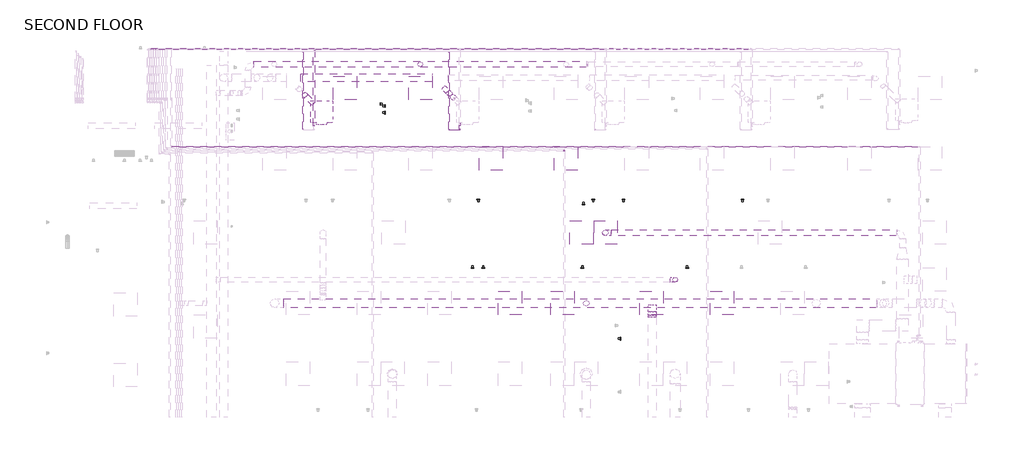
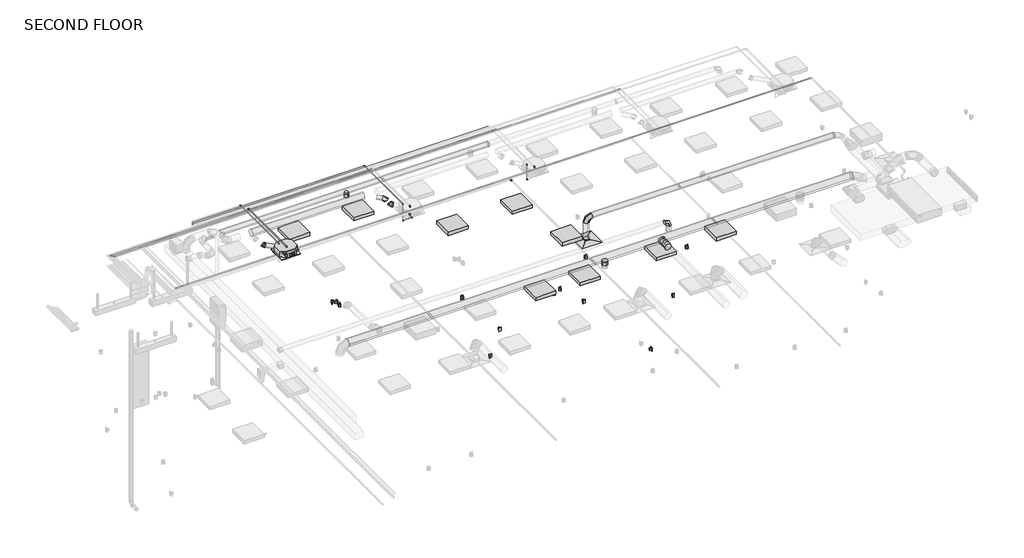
# One storey, part 10 of 12: 14 pipe segments, 12 pipe fittings, 11 duct segments, 9 duct fittings, 9 light fixtures, 9 proxies, 4 switching devices, 1 air terminal, 1 electric appliance.
"""IFC4 building model written with IfcOpenShell, lengths in millimetres."""

from ifc_helpers import new_model, si_unit, point, frame, frame_2d, origin, place, context, project, spatial, circle_curve, trimmed, segment, composite_curve, outline, extrude, transform, mapped, element, save
from components import air_terminal_52af7c74, mechanical_equipment_2d84379e, duplex_receptacle_countertop_10251bba, round_elbow_1_d_b37ad80b, round_elbow_1_d_c80420c1, round_elbow_1_d_e3dc691b, round_elbow_1_d_bb13c7cb, round_takeoff_standard_d0146e83, round_takeoff_standard_a3e273fa, round_takeoff_standard_d07f2805, round_transition_angle_45_degree_3e9bb6ff, telephone_outlet_data_plain_18c24199, troffer_corner_insert_2x2_3lamp_e67c7f8f, elbow_generic_standard_c06ac706, elbow_generic_standard_a088f956

model = new_model("IFC4")

# Units and contexts
model_context = context("Model", 3, world=origin())
ifc_project = project(units=[si_unit("LENGTHUNIT", "METRE", prefix="MILLI")], contexts=[model_context])

# Site, building, storey
site = spatial("IfcSite", under=ifc_project)
building = spatial("IfcBuilding", under=site)
storey = spatial("IfcBuildingStorey", under=building, Name="SECOND FLOOR", Elevation=34544.0)

# Air terminal
placement = place(None, origin())
air_terminal_shape = air_terminal_52af7c74(model_context)
element("IfcAirTerminal", 1, ObjectType="Supply Diffuser - Rectangular Face Round Neck - Hosted : 24\"x24\" Face 6\" Neck - Hosted", at=placement, inside=storey, context=model_context, shape_type="MappedRepresentation", body=[
    mapped(air_terminal_shape, transform((3858.5795393, 2906.1195005, 36982.4), x_axis=(-1.0, 0.0, 0.0), y_axis=(0.0, 1.0, 0.0), z_axis=(0.0, 0.0, -1.0))),
])

# Proxies
mechanical_equipment_shape = mechanical_equipment_2d84379e(model_context)
element("IfcBuildingElementProxy", 2, Name="PLFY-P-NCMU-E_4-way_24x24 : PLFY-P12NCMU-E", ObjectType="PLFY-P-NCMU-E_4-way_24x24 : PLFY-P12NCMU-E", at=placement, inside=storey, context=model_context, shape_type="MappedRepresentation", body=[
    mapped(mechanical_equipment_shape, transform((-3492.3392107, 6112.4342918, 37287.2), x_axis=(-1.0, 0.0, 0.0), y_axis=(0.0, 1.0, 0.0), z_axis=(0.0, 0.0, -1.0))),
])
duplex_receptacle_countertop_shape = duplex_receptacle_countertop_10251bba(model_context)
element("IfcBuildingElementProxy", 3, Name="Duplex Receptacle : Standard", ObjectType="Duplex Receptacle : Standard", at=placement, inside=storey, context=model_context, shape_type="MappedRepresentation", body=[
    mapped(duplex_receptacle_countertop_shape, transform((-1973.8954607, 6240.6693669, 35001.2), x_axis=(0.0, -1.0, 0.0), y_axis=(0.0, 0.0, 1.0), z_axis=(-1.0, 0.0, 0.0))),
])
element("IfcBuildingElementProxy", 4, Name="Duplex Receptacle : Standard", ObjectType="Duplex Receptacle : Standard", at=placement, inside=storey, context=model_context, shape_type="MappedRepresentation", body=[
    mapped(duplex_receptacle_countertop_shape, transform((-1850.0704607, 6015.1333707, 35001.2), x_axis=(0.0, 1.0, 0.0), y_axis=(0.0, 0.0, 1.0), z_axis=(1.0, 0.0, 0.0))),
])
element("IfcBuildingElementProxy", 5, Name="Duplex Receptacle : Standard", ObjectType="Duplex Receptacle : Standard", at=placement, inside=storey, context=model_context, shape_type="MappedRepresentation", body=[
    mapped(duplex_receptacle_countertop_shape, transform((3547.242685, 3763.3695005, 35001.2), x_axis=(-1.0, 0.0, 0.0), y_axis=(0.0, 0.0, 1.0), z_axis=(0.0, 1.0, 0.0))),
])
element("IfcBuildingElementProxy", 6, Name="Duplex Receptacle : Standard", ObjectType="Duplex Receptacle : Standard", at=placement, inside=storey, context=model_context, shape_type="MappedRepresentation", body=[
    mapped(duplex_receptacle_countertop_shape, transform((7415.6384414, 3763.3695005, 35001.2), x_axis=(-1.0, 0.0, 0.0), y_axis=(0.0, 0.0, 1.0), z_axis=(0.0, 1.0, 0.0))),
])
element("IfcBuildingElementProxy", 7, Name="Duplex Receptacle : Standard", ObjectType="Duplex Receptacle : Standard", at=placement, inside=storey, context=model_context, shape_type="MappedRepresentation", body=[
    mapped(duplex_receptacle_countertop_shape, transform((3298.1886879, 3639.5445005, 35001.2), x_axis=(1.0, 0.0, 0.0), y_axis=(0.0, 0.0, 1.0), z_axis=(0.0, -1.0, 0.0))),
])
element("IfcBuildingElementProxy", 8, Name="Duplex Receptacle : Standard", ObjectType="Duplex Receptacle : Standard", at=placement, inside=storey, context=model_context, shape_type="MappedRepresentation", body=[
    mapped(duplex_receptacle_countertop_shape, transform((414.898923, 1991.7195005, 35001.2), x_axis=(1.0, 0.0, 0.0), y_axis=(0.0, 0.0, 1.0), z_axis=(0.0, -1.0, 0.0))),
])
element("IfcBuildingElementProxy", 9, Name="Duplex Receptacle : Standard", ObjectType="Duplex Receptacle : Standard", at=placement, inside=storey, context=model_context, shape_type="MappedRepresentation", body=[
    mapped(duplex_receptacle_countertop_shape, transform((4250.6920393, 156.7583411, 35001.2), x_axis=(0.0, 1.0, 0.0), y_axis=(0.0, 0.0, 1.0), z_axis=(1.0, 0.0, 0.0))),
])
element("IfcBuildingElementProxy", 10, Name="Duplex Receptacle : Standard", ObjectType="Duplex Receptacle : Standard", at=placement, inside=storey, context=model_context, shape_type="MappedRepresentation", body=[
    mapped(duplex_receptacle_countertop_shape, transform((5982.6308828, 1991.7195005, 35001.2), x_axis=(1.0, 0.0, 0.0), y_axis=(0.0, 0.0, 1.0), z_axis=(0.0, -1.0, 0.0))),
])

# Duct fittings
round_elbow_1_d_shape = round_elbow_1_d_b37ad80b(model_context)
element("IfcDuctFitting", 11, ObjectType="Round Elbow : 1 D", at=placement, inside=storey, context=model_context, shape_type="MappedRepresentation", body=[
    mapped(round_elbow_1_d_shape, transform((3858.5795393, 2906.1195005, 37712.65), x_axis=(0.0, 0.0, 1.0), y_axis=(1.0, 0.0, 0.0), z_axis=(0.0, 1.0, 0.0))),
])
round_elbow_1_d_2_shape = round_elbow_1_d_c80420c1(model_context)
element("IfcDuctFitting", 12, ObjectType="Round Elbow : 1 D", at=placement, inside=storey, context=model_context, shape_type="MappedRepresentation", body=[
    mapped(round_elbow_1_d_2_shape, transform((5669.1232893, 1686.9195005, 37693.6), x_axis=(1.0, 0.0, 0.0), y_axis=(0.0, 0.0, -1.0), z_axis=(0.0, 1.0, 0.0))),
])
round_elbow_1_d_3_shape = round_elbow_1_d_e3dc691b(model_context)
element("IfcDuctFitting", 13, ObjectType="Round Elbow : 1 D", at=placement, inside=storey, context=model_context, shape_type="MappedRepresentation", body=[
    mapped(round_elbow_1_d_3_shape, transform((-77.1395108, 6410.0385506, 37381.2593852), x_axis=(-0.7071067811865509, 0.7071067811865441, 0.0), y_axis=(0.0, 0.0, 1.0), z_axis=(0.7071067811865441, 0.7071067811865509, 0.0))),
])
element("IfcDuctFitting", 14, ObjectType="Round Elbow : 1 D", at=placement, inside=storey, context=model_context, shape_type="MappedRepresentation", body=[
    mapped(round_elbow_1_d_3_shape, transform((-190.2346041, 6523.1336439, 37541.2), x_axis=(-0.5000000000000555, 0.49999999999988, 0.7071067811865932), y_axis=(-0.49999999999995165, 0.5000000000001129, -0.7071067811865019), z_axis=(-0.7071067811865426, -0.7071067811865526, 0.0))),
])
round_elbow_1_d_4_shape = round_elbow_1_d_bb13c7cb(model_context)
element("IfcDuctFitting", 15, ObjectType="Round Elbow : 1 D", at=placement, inside=storey, context=model_context, shape_type="MappedRepresentation", body=[
    mapped(round_elbow_1_d_4_shape, transform((-3914.7619512, 6466.235991, 37381.2593852), x_axis=(0.5775887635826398, -0.5775887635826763, -0.5768729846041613), y_axis=(0.4079107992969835, -0.4079107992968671, 0.8168338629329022), z_axis=(-0.7071067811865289, -0.7071067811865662, 0.0))),
])
round_takeoff_standard_shape = round_takeoff_standard_d0146e83(model_context)
element("IfcDuctFitting", 16, ObjectType="Round Takeoff : Standard", at=placement, inside=storey, context=model_context, shape_type="MappedRepresentation", body=[
    mapped(round_takeoff_standard_shape, transform((3364.8670393, 1077.3195005, 37579.3), x_axis=(0.0, 0.0, -1.0), y_axis=(-1.0, 0.0, 0.0), z_axis=(0.0, 1.0, 0.0))),
])
round_takeoff_standard_2_shape = round_takeoff_standard_a3e273fa(model_context)
element("IfcDuctFitting", 17, ObjectType="Round Takeoff : Standard", at=placement, inside=storey, context=model_context, shape_type="MappedRepresentation", body=[
    mapped(round_takeoff_standard_2_shape, transform((-935.6704607, 7268.5695005, 37515.8), x_axis=(0.0, 0.0, -1.0), y_axis=(1.0, 0.0, 0.0), z_axis=(0.0, -1.0, 0.0))),
])
round_takeoff_standard_3_shape = round_takeoff_standard_d07f2805(model_context)
element("IfcDuctFitting", 18, ObjectType="Round Takeoff : Standard", at=placement, inside=storey, context=model_context, shape_type="MappedRepresentation", body=[
    mapped(round_takeoff_standard_3_shape, transform((5077.7795393, 963.0195005, 37693.6), x_axis=(0.0, -1.0, 0.0), y_axis=(-1.0, 0.0, 0.0), z_axis=(0.0, 0.0, -1.0))),
])
round_transition_angle_45_degree_shape = round_transition_angle_45_degree_3e9bb6ff(model_context)
element("IfcDuctFitting", 19, ObjectType="Round Transition - Angle : 45 Degree", at=placement, inside=storey, context=model_context, shape_type="MappedRepresentation", body=[
    mapped(round_transition_angle_45_degree_shape, transform((5077.7795393, 758.7255707, 37693.6), x_axis=(0.0, -1.0, 0.0), y_axis=(1.0, 0.0, 0.0), z_axis=(0.0, 0.0, 1.0))),
])

# Duct segments
element("IfcDuctSegment", 20, ObjectType="Taps / Short Radius", at=placement, inside=storey, context=model_context, shape_type="SweptSolid", body=[
    extrude(outline(composite_curve([segment(trimmed(circle_curve(frame_2d((2906.1195005, 37712.65)), 76.2), [point((2829.9195005, 37712.65))], [point((2906.1195005, 37788.85))], False, "CARTESIAN"), True, "CONTINUOUS"), segment(trimmed(circle_curve(frame_2d((2906.1195005, 37712.65)), 76.2), [point((2906.1195005, 37788.85))], [point((2982.3195005, 37712.65))], False, "CARTESIAN"), True, "CONTINUOUS"), segment(trimmed(circle_curve(frame_2d((2906.1195005, 37712.65)), 76.2), [point((2982.3195005, 37712.65))], [point((2906.1195005, 37636.45))], False, "CARTESIAN"), True, "CONTINUOUS"), segment(trimmed(circle_curve(frame_2d((2906.1195005, 37712.65)), 76.2), [point((2906.1195005, 37636.45))], [point((2829.9195005, 37712.65))], False, "CARTESIAN"), True, "CONTINUOUS")], self_intersect=False)), frame((4010.9795393, 0.0, 0.0), z_axis=(1.0, 0.0, 0.0), x_axis=(0.0, 1.0, 0.0)), (0.0, 0.0, 1.0), 7400.528125),
])
element("IfcDuctSegment", 21, ObjectType="Taps / Short Radius", at=placement, inside=storey, context=model_context, shape_type="SweptSolid", body=[
    extrude(outline(composite_curve([segment(trimmed(circle_curve(frame_2d((3858.5795393, 2906.1195005)), 76.2), [point((3934.7795393, 2906.1195005))], [point((3858.5795393, 2829.9195005))], False, "CARTESIAN"), True, "CONTINUOUS"), segment(trimmed(circle_curve(frame_2d((3858.5795393, 2906.1195005)), 76.2), [point((3858.5795393, 2829.9195005))], [point((3782.3795393, 2906.1195005))], False, "CARTESIAN"), True, "CONTINUOUS"), segment(trimmed(circle_curve(frame_2d((3858.5795393, 2906.1195005)), 76.2), [point((3782.3795393, 2906.1195005))], [point((3858.5795393, 2982.3195005))], False, "CARTESIAN"), True, "CONTINUOUS"), segment(trimmed(circle_curve(frame_2d((3858.5795393, 2906.1195005)), 76.2), [point((3858.5795393, 2982.3195005))], [point((3934.7795393, 2906.1195005))], False, "CARTESIAN"), True, "CONTINUOUS")], self_intersect=False)), frame((0.0, 0.0, 37036.375), z_axis=(0.0, 0.0, 1.0), x_axis=(1.0, 0.0, 0.0)), (0.0, 0.0, 1.0), 523.875),
])
element("IfcDuctSegment", 22, ObjectType="Taps / Short Radius", at=placement, inside=storey, context=model_context, shape_type="SweptSolid", body=[
    extrude(outline(composite_curve([segment(trimmed(circle_curve(frame_2d((0.0, 63.5)), 63.5), [point((-63.5, 63.5))], [point((0.0, 127.0))], False, "CARTESIAN"), True, "CONTINUOUS"), segment(trimmed(circle_curve(frame_2d((0.0, 63.5)), 63.5), [point((0.0, 127.0))], [point((63.5, 63.5))], False, "CARTESIAN"), True, "CONTINUOUS"), segment(trimmed(circle_curve(frame_2d((0.0, 63.5)), 63.5), [point((63.5, 63.5))], [point((0.0, 0.0))], False, "CARTESIAN"), True, "CONTINUOUS"), segment(trimmed(circle_curve(frame_2d((0.0, 63.5)), 63.5), [point((0.0, 0.0))], [point((-63.5, 63.5))], False, "CARTESIAN"), True, "CONTINUOUS")], self_intersect=False)), frame((-935.6704607, 7205.0695005, 37388.8), z_axis=(0.0, -5.900346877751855e-12, 1.0), x_axis=(1.0, 0.0, 0.0)), (0.0, 0.0, 1.0), 25.4),
])
element("IfcDuctSegment", 23, ObjectType="Taps / Short Radius", at=placement, inside=storey, context=model_context, shape_type="SweptSolid", body=[
    extrude(outline(composite_curve([segment(trimmed(circle_curve(frame_2d((7268.5695005, 37592.0)), 76.2), [point((7344.7695005, 37592.0))], [point((7268.5695005, 37515.8))], False, "CARTESIAN"), True, "CONTINUOUS"), segment(trimmed(circle_curve(frame_2d((7268.5695005, 37592.0)), 76.2), [point((7268.5695005, 37515.8))], [point((7192.3695005, 37592.0))], False, "CARTESIAN"), True, "CONTINUOUS"), segment(trimmed(circle_curve(frame_2d((7268.5695005, 37592.0)), 76.2), [point((7192.3695005, 37592.0))], [point((7268.5695005, 37668.2))], False, "CARTESIAN"), True, "CONTINUOUS"), segment(trimmed(circle_curve(frame_2d((7268.5695005, 37592.0)), 76.2), [point((7268.5695005, 37668.2))], [point((7344.7695005, 37592.0))], False, "CARTESIAN"), True, "CONTINUOUS")], self_intersect=False)), frame((-5248.9079607, 0.0, 0.0), z_axis=(1.0, 0.0, 0.0), x_axis=(0.0, 1.0, 0.0)), (0.0, 0.0, 1.0), 8630.7394878),
])
element("IfcDuctSegment", 24, ObjectType="Taps / Short Radius", at=placement, inside=storey, context=model_context, shape_type="SweptSolid", body=[
    extrude(outline(composite_curve([segment(trimmed(circle_curve(frame_2d((5669.1232893, 1686.9195005)), 63.5), [point((5605.6232893, 1686.9195005))], [point((5669.1232893, 1750.4195005))], False, "CARTESIAN"), True, "CONTINUOUS"), segment(trimmed(circle_curve(frame_2d((5669.1232893, 1686.9195005)), 63.5), [point((5669.1232893, 1750.4195005))], [point((5732.6232893, 1686.9195005))], False, "CARTESIAN"), True, "CONTINUOUS"), segment(trimmed(circle_curve(frame_2d((5669.1232893, 1686.9195005)), 63.5), [point((5732.6232893, 1686.9195005))], [point((5669.1232893, 1623.4195005))], False, "CARTESIAN"), True, "CONTINUOUS"), segment(trimmed(circle_curve(frame_2d((5669.1232893, 1686.9195005)), 63.5), [point((5669.1232893, 1623.4195005))], [point((5605.6232893, 1686.9195005))], False, "CARTESIAN"), True, "CONTINUOUS")], self_intersect=False)), frame((0.0, 0.0, 37388.8), z_axis=(0.0, 0.0, 1.0), x_axis=(1.0, 0.0, 0.0)), (0.0, 0.0, 1.0), 177.8),
])
element("IfcDuctSegment", 25, ObjectType="Taps / Short Radius", at=placement, inside=storey, context=model_context, shape_type="SweptSolid", body=[
    extrude(outline(composite_curve([segment(trimmed(circle_curve(frame_2d((1077.3195005, 37693.6)), 114.3), [point((963.0195005, 37693.6))], [point((1077.3195005, 37807.9))], False, "CARTESIAN"), True, "CONTINUOUS"), segment(trimmed(circle_curve(frame_2d((1077.3195005, 37693.6)), 114.3), [point((1077.3195005, 37807.9))], [point((1191.6195005, 37693.6))], False, "CARTESIAN"), True, "CONTINUOUS"), segment(trimmed(circle_curve(frame_2d((1077.3195005, 37693.6)), 114.3), [point((1191.6195005, 37693.6))], [point((1077.3195005, 37579.3))], False, "CARTESIAN"), True, "CONTINUOUS"), segment(trimmed(circle_curve(frame_2d((1077.3195005, 37693.6)), 114.3), [point((1077.3195005, 37579.3))], [point((963.0195005, 37693.6))], False, "CARTESIAN"), True, "CONTINUOUS")], self_intersect=False)), frame((-4479.7642107, 0.0, 0.0), z_axis=(1.0, 0.0, 0.0), x_axis=(0.0, 1.0, 0.0)), (0.0, 0.0, 1.0), 15377.2508712),
])
element("IfcDuctSegment", 26, ObjectType="Taps / Short Radius", at=placement, inside=storey, context=model_context, shape_type="SweptSolid", body=[
    extrude(outline(composite_curve([segment(trimmed(circle_curve(frame_2d((3364.8670393, 1077.3195005)), 76.2), [point((3288.6670393, 1077.3195005))], [point((3364.8670393, 1153.5195005))], False, "CARTESIAN"), True, "CONTINUOUS"), segment(trimmed(circle_curve(frame_2d((3364.8670393, 1077.3195005)), 76.2), [point((3364.8670393, 1153.5195005))], [point((3441.0670393, 1077.3195005))], False, "CARTESIAN"), True, "CONTINUOUS"), segment(trimmed(circle_curve(frame_2d((3364.8670393, 1077.3195005)), 76.2), [point((3441.0670393, 1077.3195005))], [point((3364.8670393, 1001.1195005))], False, "CARTESIAN"), True, "CONTINUOUS"), segment(trimmed(circle_curve(frame_2d((3364.8670393, 1077.3195005)), 76.2), [point((3364.8670393, 1001.1195005))], [point((3288.6670393, 1077.3195005))], False, "CARTESIAN"), True, "CONTINUOUS")], self_intersect=False)), frame((0.0, 0.0, 37388.8), z_axis=(0.0, 0.0, 1.0), x_axis=(1.0, 0.0, 0.0)), (0.0, 0.0, 1.0), 88.9),
])
element("IfcDuctSegment", 27, ObjectType="Taps / Short Radius", at=placement, inside=storey, context=model_context, shape_type="SweptSolid", body=[
    extrude(outline(composite_curve([segment(trimmed(circle_curve(frame_2d((37693.6, 5077.7795393)), 101.6), [point((37693.6, 4976.1795393))], [point((37592.0, 5077.7795393))], False, "CARTESIAN"), True, "CONTINUOUS"), segment(trimmed(circle_curve(frame_2d((37693.6, 5077.7795393)), 101.6), [point((37592.0, 5077.7795393))], [point((37693.6, 5179.3795393))], False, "CARTESIAN"), True, "CONTINUOUS"), segment(trimmed(circle_curve(frame_2d((37693.6, 5077.7795393)), 101.6), [point((37693.6, 5179.3795393))], [point((37795.2, 5077.7795393))], False, "CARTESIAN"), True, "CONTINUOUS"), segment(trimmed(circle_curve(frame_2d((37693.6, 5077.7795393)), 101.6), [point((37795.2, 5077.7795393))], [point((37693.6, 4976.1795393))], False, "CARTESIAN"), True, "CONTINUOUS")], self_intersect=False)), frame((0.0, 758.7255707, 0.0), z_axis=(0.0, 1.0, 0.0), x_axis=(0.0, 0.0, 1.0)), (0.0, 0.0, 1.0), 102.6939298),
])
element("IfcDuctSegment", 28, ObjectType="Taps / Short Radius", at=placement, inside=storey, context=model_context, shape_type="SweptSolid", body=[
    extrude(outline(composite_curve([segment(trimmed(circle_curve(frame_2d((6917.6422212, 37541.2)), 101.6), [point((6816.0422212, 37541.2))], [point((6917.6422212, 37642.8))], False, "CARTESIAN"), True, "CONTINUOUS"), segment(trimmed(circle_curve(frame_2d((6917.6422212, 37541.2)), 101.6), [point((6917.6422212, 37642.8))], [point((7019.2422212, 37541.2))], False, "CARTESIAN"), True, "CONTINUOUS"), segment(trimmed(circle_curve(frame_2d((6917.6422212, 37541.2)), 101.6), [point((7019.2422212, 37541.2))], [point((6917.6422212, 37439.6))], False, "CARTESIAN"), True, "CONTINUOUS"), segment(trimmed(circle_curve(frame_2d((6917.6422212, 37541.2)), 101.6), [point((6917.6422212, 37439.6))], [point((6816.0422212, 37541.2))], False, "CARTESIAN"), True, "CONTINUOUS")], self_intersect=False)), frame((-4035.9681814, 0.0, 0.0), z_axis=(1.0, 0.0, 0.0), x_axis=(0.0, 1.0, 0.0)), (0.0, 0.0, 1.0), 3406.3237194),
])
element("IfcDuctSegment", 29, ObjectType="Taps / Short Radius", at=placement, inside=storey, context=model_context, shape_type="SweptSolid", body=[
    extrude(outline(composite_curve([segment(trimmed(circle_curve(frame_2d((0.0, 63.5)), 63.5), [point((63.5, 63.5))], [point((0.0, 0.0))], False, "CARTESIAN"), True, "CONTINUOUS"), segment(trimmed(circle_curve(frame_2d((0.0, 63.5)), 63.5), [point((0.0, 0.0))], [point((-63.5, 63.5))], False, "CARTESIAN"), True, "CONTINUOUS"), segment(trimmed(circle_curve(frame_2d((0.0, 63.5)), 63.5), [point((-63.5, 63.5))], [point((0.0, 127.0))], False, "CARTESIAN"), True, "CONTINUOUS"), segment(trimmed(circle_curve(frame_2d((0.0, 63.5)), 63.5), [point((0.0, 127.0))], [point((63.5, 63.5))], False, "CARTESIAN"), True, "CONTINUOUS")], self_intersect=False)), frame((-227.4320429, 6560.3310827, 37604.7), z_axis=(-0.7071067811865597, 0.7071067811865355, 0.0), x_axis=(0.7071067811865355, 0.7071067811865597, 0.0)), (0.0, 0.0, 1.0), 154.4460622),
])
element("IfcDuctSegment", 30, ObjectType="Taps / Short Radius", at=placement, inside=storey, context=model_context, shape_type="SweptSolid", body=[
    extrude(outline(composite_curve([segment(trimmed(circle_curve(frame_2d((0.0, -63.5)), 63.5), [point((-63.5, -63.5))], [point((0.0, 0.0))], False, "CARTESIAN"), True, "CONTINUOUS"), segment(trimmed(circle_curve(frame_2d((0.0, -63.5)), 63.5), [point((0.0, 0.0))], [point((63.5, -63.5))], False, "CARTESIAN"), True, "CONTINUOUS"), segment(trimmed(circle_curve(frame_2d((0.0, -63.5)), 63.5), [point((63.5, -63.5))], [point((0.0, -127.0))], False, "CARTESIAN"), True, "CONTINUOUS"), segment(trimmed(circle_curve(frame_2d((0.0, -63.5)), 63.5), [point((0.0, -127.0))], [point((-63.5, -63.5))], False, "CARTESIAN"), True, "CONTINUOUS")], self_intersect=False)), frame((-3699.2355888, 6250.7096286, 37317.7593852), z_axis=(-0.7071067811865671, 0.707106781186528, 0.0), x_axis=(0.707106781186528, 0.7071067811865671, 0.0)), (0.0, 0.0, 1.0), 264.4758313),
])

# Electric appliance
telephone_outlet_data_plain_shape = telephone_outlet_data_plain_18c24199(model_context)
element("IfcElectricAppliance", 31, ObjectType="Telephone Outlet - Data : Plain", at=placement, inside=storey, context=model_context, shape_type="MappedRepresentation", body=[
    mapped(telephone_outlet_data_plain_shape, transform((-1850.0704607, 7070.5576613, 34143.95), x_axis=(0.0, 1.0, 0.0), y_axis=(0.0, 0.0, 1.0), z_axis=(1.0, 0.0, 0.0))),
])

# Light fixtures
troffer_corner_insert_2x2_3lamp_shape = troffer_corner_insert_2x2_3lamp_e67c7f8f(model_context)
element("IfcLightFixture", 32, ObjectType="Troffer Corner Insert : 2x2 3Lamp", at=placement, inside=storey, context=model_context, shape_type="MappedRepresentation", body=[
    mapped(troffer_corner_insert_2x2_3lamp_shape, transform((-935.6704607, 6658.9695005, 34848.8), x_axis=(1.0, 0.0, 0.0), y_axis=(0.0, 1.0, 0.0), z_axis=(0.0, 0.0, 1.0))),
])
element("IfcLightFixture", 33, ObjectType="Troffer Corner Insert : 2x2 3Lamp", at=placement, inside=storey, context=model_context, shape_type="MappedRepresentation", body=[
    mapped(troffer_corner_insert_2x2_3lamp_shape, transform((893.1295393, 4830.1695005, 34848.8), x_axis=(1.0, 0.0, 0.0), y_axis=(0.0, 1.0, 0.0), z_axis=(0.0, 0.0, 1.0))),
])
element("IfcLightFixture", 34, ObjectType="Troffer Corner Insert : 2x2 3Lamp", at=placement, inside=storey, context=model_context, shape_type="MappedRepresentation", body=[
    mapped(troffer_corner_insert_2x2_3lamp_shape, transform((2845.7545393, 4830.1695005, 34848.8), x_axis=(1.0, 0.0, 0.0), y_axis=(0.0, 1.0, 0.0), z_axis=(0.0, 0.0, 1.0))),
])
element("IfcLightFixture", 35, ObjectType="Troffer Corner Insert : 2x2 3Lamp", at=placement, inside=storey, context=model_context, shape_type="MappedRepresentation", body=[
    mapped(troffer_corner_insert_2x2_3lamp_shape, transform((3248.9795393, 2906.1195005, 34848.8), x_axis=(1.0, 0.0, 0.0), y_axis=(0.0, 1.0, 0.0), z_axis=(0.0, 0.0, 1.0))),
])
element("IfcLightFixture", 36, ObjectType="Troffer Corner Insert : 2x2 3Lamp", at=placement, inside=storey, context=model_context, shape_type="MappedRepresentation", body=[
    mapped(troffer_corner_insert_2x2_3lamp_shape, transform((1387.6357893, 1077.3195005, 34848.8), x_axis=(1.0, 0.0, 0.0), y_axis=(0.0, 1.0, 0.0), z_axis=(0.0, 0.0, 1.0))),
])
element("IfcLightFixture", 37, ObjectType="Troffer Corner Insert : 2x2 3Lamp", at=placement, inside=storey, context=model_context, shape_type="MappedRepresentation", body=[
    mapped(troffer_corner_insert_2x2_3lamp_shape, transform((2755.2670393, 1077.3195005, 34848.8), x_axis=(1.0, 0.0, 0.0), y_axis=(0.0, 1.0, 0.0), z_axis=(0.0, 0.0, 1.0))),
])
element("IfcLightFixture", 38, ObjectType="Troffer Corner Insert : 2x2 3Lamp", at=placement, inside=storey, context=model_context, shape_type="MappedRepresentation", body=[
    mapped(troffer_corner_insert_2x2_3lamp_shape, transform((5059.5232893, 1077.3195005, 34848.8), x_axis=(1.0, 0.0, 0.0), y_axis=(0.0, 1.0, 0.0), z_axis=(0.0, 0.0, 1.0))),
])
element("IfcLightFixture", 39, ObjectType="Troffer Corner Insert : 2x2 3Lamp", at=placement, inside=storey, context=model_context, shape_type="MappedRepresentation", body=[
    mapped(troffer_corner_insert_2x2_3lamp_shape, transform((6888.3232893, 1077.3195005, 34848.8), x_axis=(1.0, 0.0, 0.0), y_axis=(0.0, 1.0, 0.0), z_axis=(0.0, 0.0, 1.0))),
])
element("IfcLightFixture", 40, ObjectType="Troffer Corner Insert : 2x2 3Lamp", at=placement, inside=storey, context=model_context, shape_type="MappedRepresentation", body=[
    mapped(troffer_corner_insert_2x2_3lamp_shape, transform((-2888.2954607, 6658.9695005, 34848.8), x_axis=(1.0, 0.0, 0.0), y_axis=(0.0, 1.0, 0.0), z_axis=(0.0, 0.0, 1.0))),
])

# Pipe fittings
elbow_generic_standard_shape = elbow_generic_standard_c06ac706(model_context)
element("IfcPipeFitting", 41, ObjectType="Elbow - Generic : Standard", at=placement, inside=storey, context=model_context, shape_type="MappedRepresentation", body=[
    mapped(elbow_generic_standard_shape, transform((-3690.7767107, 7663.8570005, 37744.4), x_axis=(0.0, 1.0, 0.0), y_axis=(-1.0, 0.0, 0.0), z_axis=(0.0, 0.0, 1.0))),
])
element("IfcPipeFitting", 42, ObjectType="Elbow - Generic : Standard", at=placement, inside=storey, context=model_context, shape_type="MappedRepresentation", body=[
    mapped(elbow_generic_standard_shape, transform((90.6482893, 5684.3376647, 37706.3), x_axis=(0.0, 0.0, 1.0), y_axis=(0.0, 1.0, 0.0), z_axis=(-1.0, 0.0, 0.0))),
])
element("IfcPipeFitting", 43, ObjectType="Elbow - Generic : Standard", at=placement, inside=storey, context=model_context, shape_type="MappedRepresentation", body=[
    mapped(elbow_generic_standard_shape, transform((3872.0732893, 5665.0498496, 37668.2), x_axis=(0.0, 0.0, 1.0), y_axis=(0.0, 1.0, 0.0), z_axis=(-1.0, 0.0, 0.0))),
])
element("IfcPipeFitting", 44, ObjectType="Elbow - Generic : Standard", at=placement, inside=storey, context=model_context, shape_type="MappedRepresentation", body=[
    mapped(elbow_generic_standard_shape, transform((2797.6532893, 5034.0701311, 37998.4), x_axis=(0.0, 1.0, 0.0), y_axis=(-1.0, 0.0, 0.0), z_axis=(0.0, 0.0, 1.0))),
])
element("IfcPipeFitting", 45, ObjectType="Elbow - Generic : Standard", at=placement, inside=storey, context=model_context, shape_type="MappedRepresentation", body=[
    mapped(elbow_generic_standard_shape, transform((90.6482893, 5684.3376647, 37437.2187602), x_axis=(0.0, 0.0, -1.0), y_axis=(0.0, 1.0, 0.0), z_axis=(1.0, 0.0, 0.0))),
])
elbow_generic_standard_2_shape = elbow_generic_standard_a088f956(model_context)
element("IfcPipeFitting", 46, ObjectType="Elbow - Generic : Standard", at=placement, inside=storey, context=model_context, shape_type="MappedRepresentation", body=[
    mapped(elbow_generic_standard_2_shape, transform((-3973.3517107, 7600.3570005, 37998.4), x_axis=(0.0, 1.0, 0.0), y_axis=(-1.0, 0.0, 0.0), z_axis=(0.0, 0.0, 1.0))),
])
element("IfcPipeFitting", 47, ObjectType="Elbow - Generic : Standard", at=placement, inside=storey, context=model_context, shape_type="MappedRepresentation", body=[
    mapped(elbow_generic_standard_2_shape, transform((87.4732893, 5568.3570005, 37407.85), x_axis=(1.0, 0.0, 0.0), y_axis=(0.0, 0.9999999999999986, 5.375459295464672e-08), z_axis=(0.0, -5.375459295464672e-08, 0.9999999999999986))),
])
element("IfcPipeFitting", 48, ObjectType="Elbow - Generic : Standard", at=placement, inside=storey, context=model_context, shape_type="MappedRepresentation", body=[
    mapped(elbow_generic_standard_2_shape, transform((-191.9267107, 5568.3570005, 37407.85), x_axis=(-1.0, 0.0, 0.0), y_axis=(0.0, 0.0, 1.0), z_axis=(0.0, 1.0, 0.0))),
])
element("IfcPipeFitting", 49, ObjectType="Elbow - Generic : Standard", at=placement, inside=storey, context=model_context, shape_type="MappedRepresentation", body=[
    mapped(elbow_generic_standard_2_shape, transform((-191.9267107, 5568.3570005, 37947.6), x_axis=(0.0, 0.0, 1.0), y_axis=(0.0, 1.0, 0.0), z_axis=(-1.0, 0.0, 0.0))),
])
element("IfcPipeFitting", 50, ObjectType="Elbow - Generic : Standard", at=placement, inside=storey, context=model_context, shape_type="MappedRepresentation", body=[
    mapped(elbow_generic_standard_2_shape, transform((-191.9267107, 7600.3570005, 37947.6), x_axis=(0.0, 1.0, 0.0), y_axis=(-1.0, 0.0, 0.0), z_axis=(0.0, 0.0, 1.0))),
])
element("IfcPipeFitting", 51, ObjectType="Elbow - Generic : Standard", at=placement, inside=storey, context=model_context, shape_type="MappedRepresentation", body=[
    mapped(elbow_generic_standard_2_shape, transform((3588.7045393, 5568.3570005, 37407.8499993), x_axis=(-1.0, 0.0, 0.0), y_axis=(0.0, 0.0, 1.0), z_axis=(0.0, 1.0, 0.0))),
])
element("IfcPipeFitting", 52, ObjectType="Elbow - Generic : Standard", at=placement, inside=storey, context=model_context, shape_type="MappedRepresentation", body=[
    mapped(elbow_generic_standard_2_shape, transform((3588.7045393, 5568.3570005, 37896.8), x_axis=(0.0, 0.0, 1.0), y_axis=(0.0, 1.0, 0.0), z_axis=(-1.0, 0.0, 0.0))),
])

# Pipe segments
element("IfcPipeSegment", 53, ObjectType="Copper Tubing", at=placement, inside=storey, context=model_context, shape_type="SweptSolid", body=[
    extrude(outline(composite_curve([segment(trimmed(circle_curve(frame_2d((37744.4, -3690.7767107)), 14.2875), [point((37744.4, -3676.4892107))], [point((37758.6875, -3690.7767107))], False, "CARTESIAN"), True, "CONTINUOUS"), segment(trimmed(circle_curve(frame_2d((37744.4, -3690.7767107)), 14.2875), [point((37758.6875, -3690.7767107))], [point((37744.4, -3705.0642107))], False, "CARTESIAN"), True, "CONTINUOUS"), segment(trimmed(circle_curve(frame_2d((37744.4, -3690.7767107)), 14.2875), [point((37744.4, -3705.0642107))], [point((37730.1125, -3690.7767107))], False, "CARTESIAN"), True, "CONTINUOUS"), segment(trimmed(circle_curve(frame_2d((37744.4, -3690.7767107)), 14.2875), [point((37730.1125, -3690.7767107))], [point((37744.4, -3676.4892107))], False, "CARTESIAN"), True, "CONTINUOUS")], self_intersect=False)), frame((0.0, 5676.904836, 0.0), z_axis=(0.0, 1.0, 0.0), x_axis=(0.0, 0.0, 1.0)), (0.0, 0.0, 1.0), 1966.3146645),
])
element("IfcPipeSegment", 54, ObjectType="Copper Tubing", at=placement, inside=storey, context=model_context, shape_type="SweptSolid", body=[
    extrude(outline(composite_curve([segment(trimmed(circle_curve(frame_2d((7663.8570005, 37706.3)), 14.2875), [point((7649.5695005, 37706.3))], [point((7663.8570005, 37720.5875))], False, "CARTESIAN"), True, "CONTINUOUS"), segment(trimmed(circle_curve(frame_2d((7663.8570005, 37706.3)), 14.2875), [point((7663.8570005, 37720.5875))], [point((7678.1445005, 37706.3))], False, "CARTESIAN"), True, "CONTINUOUS"), segment(trimmed(circle_curve(frame_2d((7663.8570005, 37706.3)), 14.2875), [point((7678.1445005, 37706.3))], [point((7663.8570005, 37692.0125))], False, "CARTESIAN"), True, "CONTINUOUS"), segment(trimmed(circle_curve(frame_2d((7663.8570005, 37706.3)), 14.2875), [point((7663.8570005, 37692.0125))], [point((7649.5695005, 37706.3))], False, "CARTESIAN"), True, "CONTINUOUS")], self_intersect=False)), frame((-7910.4415543, 0.0, 0.0), z_axis=(1.0, 0.0, 0.0), x_axis=(0.0, 1.0, 0.0)), (0.0, 0.0, 1.0), 7980.4523436),
])
element("IfcPipeSegment", 55, ObjectType="Copper Tubing", at=placement, inside=storey, context=model_context, shape_type="SweptSolid", body=[
    extrude(outline(composite_curve([segment(trimmed(circle_curve(frame_2d((7663.8570005, 37668.2)), 14.2875), [point((7649.5695005, 37668.2))], [point((7663.8570005, 37682.4875))], False, "CARTESIAN"), True, "CONTINUOUS"), segment(trimmed(circle_curve(frame_2d((7663.8570005, 37668.2)), 14.2875), [point((7663.8570005, 37682.4875))], [point((7678.1445005, 37668.2))], False, "CARTESIAN"), True, "CONTINUOUS"), segment(trimmed(circle_curve(frame_2d((7663.8570005, 37668.2)), 14.2875), [point((7678.1445005, 37668.2))], [point((7663.8570005, 37653.9125))], False, "CARTESIAN"), True, "CONTINUOUS"), segment(trimmed(circle_curve(frame_2d((7663.8570005, 37668.2)), 14.2875), [point((7663.8570005, 37653.9125))], [point((7649.5695005, 37668.2))], False, "CARTESIAN"), True, "CONTINUOUS")], self_intersect=False)), frame((-7850.4415543, 0.0, 0.0), z_axis=(1.0, 0.0, 0.0), x_axis=(0.0, 1.0, 0.0)), (0.0, 0.0, 1.0), 11701.8773436),
])
element("IfcPipeSegment", 56, ObjectType="Copper Tubing", at=placement, inside=storey, context=model_context, shape_type="SweptSolid", body=[
    extrude(outline(composite_curve([segment(trimmed(circle_curve(frame_2d((7663.8570005, 37630.1)), 14.2875), [point((7649.5695005, 37630.1))], [point((7663.8570005, 37644.3875))], False, "CARTESIAN"), True, "CONTINUOUS"), segment(trimmed(circle_curve(frame_2d((7663.8570005, 37630.1)), 14.2875), [point((7663.8570005, 37644.3875))], [point((7678.1445005, 37630.1))], False, "CARTESIAN"), True, "CONTINUOUS"), segment(trimmed(circle_curve(frame_2d((7663.8570005, 37630.1)), 14.2875), [point((7678.1445005, 37630.1))], [point((7663.8570005, 37615.8125))], False, "CARTESIAN"), True, "CONTINUOUS"), segment(trimmed(circle_curve(frame_2d((7663.8570005, 37630.1)), 14.2875), [point((7663.8570005, 37615.8125))], [point((7649.5695005, 37630.1))], False, "CARTESIAN"), True, "CONTINUOUS")], self_intersect=False)), frame((-7790.4415543, 0.0, 0.0), z_axis=(1.0, 0.0, 0.0), x_axis=(0.0, 1.0, 0.0)), (0.0, 0.0, 1.0), 15423.3023436),
])
element("IfcPipeSegment", 57, ObjectType="Copper Tubing", at=placement, inside=storey, context=model_context, shape_type="SweptSolid", body=[
    extrude(outline(composite_curve([segment(trimmed(circle_curve(frame_2d((5135.6701311, 37998.4)), 14.2875), [point((5121.3826311, 37998.4))], [point((5135.6701311, 38012.6875))], False, "CARTESIAN"), True, "CONTINUOUS"), segment(trimmed(circle_curve(frame_2d((5135.6701311, 37998.4)), 14.2875), [point((5135.6701311, 38012.6875))], [point((5149.9576311, 37998.4))], False, "CARTESIAN"), True, "CONTINUOUS"), segment(trimmed(circle_curve(frame_2d((5135.6701311, 37998.4)), 14.2875), [point((5149.9576311, 37998.4))], [point((5135.6701311, 37984.1125))], False, "CARTESIAN"), True, "CONTINUOUS"), segment(trimmed(circle_curve(frame_2d((5135.6701311, 37998.4)), 14.2875), [point((5135.6701311, 37984.1125))], [point((5121.3826311, 37998.4))], False, "CARTESIAN"), True, "CONTINUOUS")], self_intersect=False)), frame((-7370.4415543, 0.0, 0.0), z_axis=(1.0, 0.0, 0.0), x_axis=(0.0, 1.0, 0.0)), (0.0, 0.0, 1.0), 19360.9898436),
])
element("IfcPipeSegment", 58, ObjectType="Copper Tubing", at=placement, inside=storey, context=model_context, shape_type="SweptSolid", body=[
    extrude(outline(composite_curve([segment(trimmed(circle_curve(frame_2d((37998.4, -3973.3517107)), 7.9375), [point((37998.4, -3965.4142107))], [point((38006.3375, -3973.3517107))], False, "CARTESIAN"), True, "CONTINUOUS"), segment(trimmed(circle_curve(frame_2d((37998.4, -3973.3517107)), 7.9375), [point((38006.3375, -3973.3517107))], [point((37998.4, -3981.2892107))], False, "CARTESIAN"), True, "CONTINUOUS"), segment(trimmed(circle_curve(frame_2d((37998.4, -3973.3517107)), 7.9375), [point((37998.4, -3981.2892107))], [point((37990.4625, -3973.3517107))], False, "CARTESIAN"), True, "CONTINUOUS"), segment(trimmed(circle_curve(frame_2d((37998.4, -3973.3517107)), 7.9375), [point((37990.4625, -3973.3517107))], [point((37998.4, -3965.4142107))], False, "CARTESIAN"), True, "CONTINUOUS")], self_intersect=False)), frame((0.0, 5582.6445005, 0.0), z_axis=(0.0, 1.0, 0.0), x_axis=(0.0, 0.0, 1.0)), (0.0, 0.0, 1.0), 2003.425),
])
element("IfcPipeSegment", 59, ObjectType="Copper Tubing", at=placement, inside=storey, context=model_context, shape_type="SweptSolid", body=[
    extrude(outline(composite_curve([segment(trimmed(circle_curve(frame_2d((37407.85, 87.4732893)), 7.9375), [point((37407.85, 79.5357893))], [point((37399.9125, 87.4732893))], False, "CARTESIAN"), True, "CONTINUOUS"), segment(trimmed(circle_curve(frame_2d((37407.85, 87.4732893)), 7.9375), [point((37399.9125, 87.4732893))], [point((37407.85, 95.4107893))], False, "CARTESIAN"), True, "CONTINUOUS"), segment(trimmed(circle_curve(frame_2d((37407.85, 87.4732893)), 7.9375), [point((37407.85, 95.4107893))], [point((37415.7875, 87.4732893))], False, "CARTESIAN"), True, "CONTINUOUS"), segment(trimmed(circle_curve(frame_2d((37407.85, 87.4732893)), 7.9375), [point((37415.7875, 87.4732893))], [point((37407.85, 79.5357893))], False, "CARTESIAN"), True, "CONTINUOUS")], self_intersect=False)), frame((0.0, 5582.6445005, 0.0), z_axis=(0.0, 1.0, 0.0), x_axis=(0.0, 0.0, 1.0)), (0.0, 0.0, 1.0), 176.2125),
])
element("IfcPipeSegment", 60, ObjectType="Copper Tubing", at=placement, inside=storey, context=model_context, shape_type="SweptSolid", body=[
    extrude(outline(composite_curve([segment(trimmed(circle_curve(frame_2d((5568.3570005, 37407.85)), 7.9375), [point((5576.2945005, 37407.85))], [point((5568.3570005, 37399.9125))], False, "CARTESIAN"), True, "CONTINUOUS"), segment(trimmed(circle_curve(frame_2d((5568.3570005, 37407.85)), 7.9375), [point((5568.3570005, 37399.9125))], [point((5560.4195005, 37407.85))], False, "CARTESIAN"), True, "CONTINUOUS"), segment(trimmed(circle_curve(frame_2d((5568.3570005, 37407.85)), 7.9375), [point((5560.4195005, 37407.85))], [point((5568.3570005, 37415.7875))], False, "CARTESIAN"), True, "CONTINUOUS"), segment(trimmed(circle_curve(frame_2d((5568.3570005, 37407.85)), 7.9375), [point((5568.3570005, 37415.7875))], [point((5576.2945005, 37407.85))], False, "CARTESIAN"), True, "CONTINUOUS")], self_intersect=False)), frame((-177.6392107, 0.0, 0.0), z_axis=(1.0, 0.0, 0.0), x_axis=(0.0, 1.0, 0.0)), (0.0, 0.0, 1.0), 250.825),
])
element("IfcPipeSegment", 61, ObjectType="Copper Tubing", at=placement, inside=storey, context=model_context, shape_type="SweptSolid", body=[
    extrude(outline(composite_curve([segment(trimmed(circle_curve(frame_2d((37947.6, -191.9267107)), 7.9375), [point((37947.6, -183.9892107))], [point((37955.5375, -191.9267107))], False, "CARTESIAN"), True, "CONTINUOUS"), segment(trimmed(circle_curve(frame_2d((37947.6, -191.9267107)), 7.9375), [point((37955.5375, -191.9267107))], [point((37947.6, -199.8642107))], False, "CARTESIAN"), True, "CONTINUOUS"), segment(trimmed(circle_curve(frame_2d((37947.6, -191.9267107)), 7.9375), [point((37947.6, -199.8642107))], [point((37939.6625, -191.9267107))], False, "CARTESIAN"), True, "CONTINUOUS"), segment(trimmed(circle_curve(frame_2d((37947.6, -191.9267107)), 7.9375), [point((37939.6625, -191.9267107))], [point((37947.6, -183.9892107))], False, "CARTESIAN"), True, "CONTINUOUS")], self_intersect=False)), frame((0.0, 5582.6445005, 0.0), z_axis=(0.0, 1.0, 0.0), x_axis=(0.0, 0.0, 1.0)), (0.0, 0.0, 1.0), 2003.425),
])
element("IfcPipeSegment", 62, ObjectType="Copper Tubing", at=placement, inside=storey, context=model_context, shape_type="SweptSolid", body=[
    extrude(outline(composite_curve([segment(trimmed(circle_curve(frame_2d((-191.9267107, 5568.3570005)), 7.9375), [point((-199.8642107, 5568.3570005))], [point((-191.9267107, 5576.2945005))], False, "CARTESIAN"), True, "CONTINUOUS"), segment(trimmed(circle_curve(frame_2d((-191.9267107, 5568.3570005)), 7.9375), [point((-191.9267107, 5576.2945005))], [point((-183.9892107, 5568.3570005))], False, "CARTESIAN"), True, "CONTINUOUS"), segment(trimmed(circle_curve(frame_2d((-191.9267107, 5568.3570005)), 7.9375), [point((-183.9892107, 5568.3570005))], [point((-191.9267107, 5560.4195005))], False, "CARTESIAN"), True, "CONTINUOUS"), segment(trimmed(circle_curve(frame_2d((-191.9267107, 5568.3570005)), 7.9375), [point((-191.9267107, 5560.4195005))], [point((-199.8642107, 5568.3570005))], False, "CARTESIAN"), True, "CONTINUOUS")], self_intersect=False)), frame((0.0, 0.0, 37422.1375), z_axis=(0.0, 0.0, 1.0), x_axis=(1.0, 0.0, 0.0)), (0.0, 0.0, 1.0), 511.175),
])
element("IfcPipeSegment", 63, ObjectType="Copper Tubing", at=placement, inside=storey, context=model_context, shape_type="SweptSolid", body=[
    extrude(outline(composite_curve([segment(trimmed(circle_curve(frame_2d((7600.3570005, 37947.6)), 7.9375), [point((7608.2945005, 37947.6))], [point((7600.3570005, 37939.6625))], False, "CARTESIAN"), True, "CONTINUOUS"), segment(trimmed(circle_curve(frame_2d((7600.3570005, 37947.6)), 7.9375), [point((7600.3570005, 37939.6625))], [point((7592.4195005, 37947.6))], False, "CARTESIAN"), True, "CONTINUOUS"), segment(trimmed(circle_curve(frame_2d((7600.3570005, 37947.6)), 7.9375), [point((7592.4195005, 37947.6))], [point((7600.3570005, 37955.5375))], False, "CARTESIAN"), True, "CONTINUOUS"), segment(trimmed(circle_curve(frame_2d((7600.3570005, 37947.6)), 7.9375), [point((7600.3570005, 37955.5375))], [point((7608.2945005, 37947.6))], False, "CARTESIAN"), True, "CONTINUOUS")], self_intersect=False)), frame((-5446.5517107, 0.0, 0.0), z_axis=(1.0, 0.0, 0.0), x_axis=(0.0, 1.0, 0.0)), (0.0, 0.0, 1.0), 5240.3375),
])
element("IfcPipeSegment", 64, ObjectType="Copper Tubing", at=placement, inside=storey, context=model_context, shape_type="SweptSolid", body=[
    extrude(outline(composite_curve([segment(trimmed(circle_curve(frame_2d((3588.7045393, 5568.3570005)), 7.9375), [point((3580.7670393, 5568.3570005))], [point((3588.7045393, 5576.2945005))], False, "CARTESIAN"), True, "CONTINUOUS"), segment(trimmed(circle_curve(frame_2d((3588.7045393, 5568.3570005)), 7.9375), [point((3588.7045393, 5576.2945005))], [point((3596.6420393, 5568.3570005))], False, "CARTESIAN"), True, "CONTINUOUS"), segment(trimmed(circle_curve(frame_2d((3588.7045393, 5568.3570005)), 7.9375), [point((3596.6420393, 5568.3570005))], [point((3588.7045393, 5560.4195005))], False, "CARTESIAN"), True, "CONTINUOUS"), segment(trimmed(circle_curve(frame_2d((3588.7045393, 5568.3570005)), 7.9375), [point((3588.7045393, 5560.4195005))], [point((3580.7670393, 5568.3570005))], False, "CARTESIAN"), True, "CONTINUOUS")], self_intersect=False)), frame((0.0, 0.0, 37422.1374993), z_axis=(0.0, 0.0, 1.0), x_axis=(1.0, 0.0, 0.0)), (0.0, 0.0, 1.0), 460.3750007),
])
element("IfcPipeSegment", 65, ObjectType="Copper Tubing", at=placement, inside=storey, context=model_context, shape_type="SweptSolid", body=[
    extrude(outline(composite_curve([segment(trimmed(circle_curve(frame_2d((7600.3570005, 37896.8)), 7.9375), [point((7608.2945005, 37896.8))], [point((7600.3570005, 37888.8625))], False, "CARTESIAN"), True, "CONTINUOUS"), segment(trimmed(circle_curve(frame_2d((7600.3570005, 37896.8)), 7.9375), [point((7600.3570005, 37888.8625))], [point((7592.4195005, 37896.8))], False, "CARTESIAN"), True, "CONTINUOUS"), segment(trimmed(circle_curve(frame_2d((7600.3570005, 37896.8)), 7.9375), [point((7592.4195005, 37896.8))], [point((7600.3570005, 37904.7375))], False, "CARTESIAN"), True, "CONTINUOUS"), segment(trimmed(circle_curve(frame_2d((7600.3570005, 37896.8)), 7.9375), [point((7600.3570005, 37904.7375))], [point((7608.2945005, 37896.8))], False, "CARTESIAN"), True, "CONTINUOUS")], self_intersect=False)), frame((-5446.5517107, 0.0, 0.0), z_axis=(1.0, 0.0, 0.0), x_axis=(0.0, 1.0, 0.0)), (0.0, 0.0, 1.0), 9020.96875),
])
element("IfcPipeSegment", 66, ObjectType="Copper Tubing", at=placement, inside=storey, context=model_context, shape_type="SweptSolid", body=[
    extrude(outline(composite_curve([segment(trimmed(circle_curve(frame_2d((37437.2187602, 90.6482893)), 14.2875), [point((37437.2187602, 76.3607893))], [point((37422.9312602, 90.6482893))], False, "CARTESIAN"), True, "CONTINUOUS"), segment(trimmed(circle_curve(frame_2d((37437.2187602, 90.6482893)), 14.2875), [point((37422.9312602, 90.6482893))], [point((37437.2187602, 104.9357893))], False, "CARTESIAN"), True, "CONTINUOUS"), segment(trimmed(circle_curve(frame_2d((37437.2187602, 90.6482893)), 14.2875), [point((37437.2187602, 104.9357893))], [point((37451.5062602, 90.6482893))], False, "CARTESIAN"), True, "CONTINUOUS"), segment(trimmed(circle_curve(frame_2d((37437.2187602, 90.6482893)), 14.2875), [point((37451.5062602, 90.6482893))], [point((37437.2187602, 76.3607893))], False, "CARTESIAN"), True, "CONTINUOUS")], self_intersect=False)), frame((0.0, 5704.9751647, 0.0), z_axis=(0.0, 1.0, 0.0), x_axis=(0.0, 0.0, 1.0)), (0.0, 0.0, 1.0), 53.8818359),
])

# Switching devices
element("IfcSwitchingDevice", 67, ObjectType="Lighting Switches : Single Pole", at=placement, inside=storey, context=model_context, shape_type="MappedRepresentation", body=[
    mapped(duplex_receptacle_countertop_shape, transform((568.5788686, 3763.3695005, 35763.2), x_axis=(-1.0, 0.0, 0.0), y_axis=(0.0, 0.0, 1.0), z_axis=(0.0, 1.0, 0.0))),
])
element("IfcSwitchingDevice", 68, ObjectType="Lighting Switches : Single Pole", at=placement, inside=storey, context=model_context, shape_type="MappedRepresentation", body=[
    mapped(duplex_receptacle_countertop_shape, transform((4328.4886901, 3763.3695005, 35763.2), x_axis=(-1.0, 0.0, 0.0), y_axis=(0.0, 0.0, 1.0), z_axis=(0.0, 1.0, 0.0))),
])
element("IfcSwitchingDevice", 69, ObjectType="Lighting Switches : Three Way", at=placement, inside=storey, context=model_context, shape_type="MappedRepresentation", body=[
    mapped(duplex_receptacle_countertop_shape, transform((3264.6382368, 1991.7195005, 35763.2), x_axis=(1.0, 0.0, 0.0), y_axis=(0.0, 0.0, 1.0), z_axis=(0.0, -1.0, 0.0))),
])
element("IfcSwitchingDevice", 70, ObjectType="Lighting Switches : Three Way", at=placement, inside=storey, context=model_context, shape_type="MappedRepresentation", body=[
    mapped(duplex_receptacle_countertop_shape, transform((696.8470119, 1991.7195005, 35763.2), x_axis=(1.0, 0.0, 0.0), y_axis=(0.0, 0.0, 1.0), z_axis=(0.0, -1.0, 0.0))),
])

save(model, "model.ifc")
